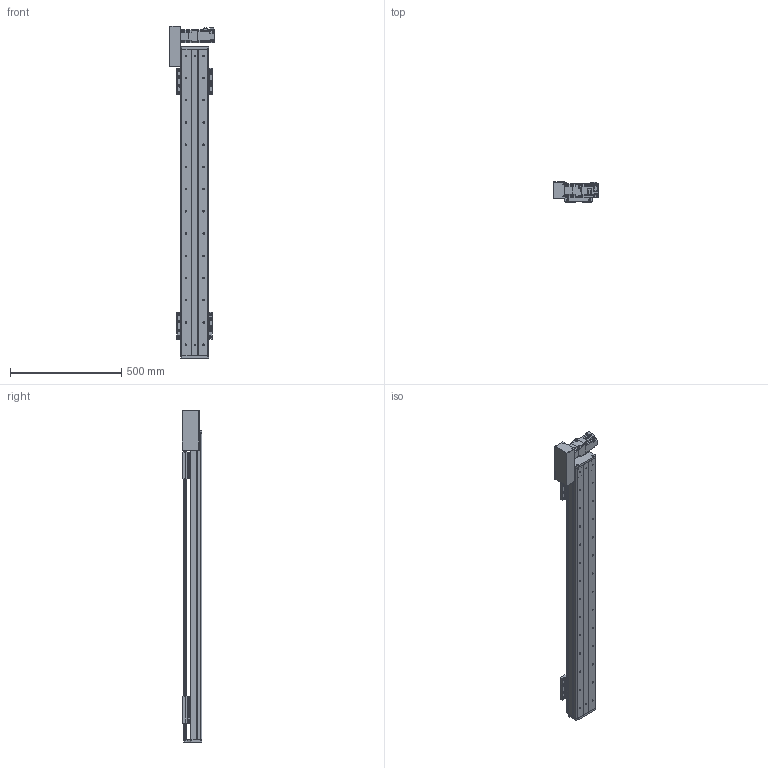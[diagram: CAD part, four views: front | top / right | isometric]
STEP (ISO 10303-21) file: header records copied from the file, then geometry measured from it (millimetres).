
FILE_DESCRIPTION(/* description */ (''),/* implementation_level */ '2;1');
FILE_NAME(/* name */ 'C:\Users\PC\Desktop\3D도면\STEP\DSB125-L2G-W1100-R.stp',/* time_stamp */ '2018-06-13T13:44:24+09:00',/* author */ ('PC'),/* organization */ (''),/* preprocessor_version */ 'ST-DEVELOPER v16.5',/* originating_system */ 'Autodesk Inventor 2017',/* authorisation */ '');
FILE_SCHEMA (('AUTOMOTIVE_DESIGN { 1 0 10303 214 3 1 1 }'));
Length unit declared in the file: millimetre
Products named in the file (12): DSB125-L-300ST; DSR125-BASE(S-TYPE); DSR125-REAR COVER-R01(170203); DSR125-REAR COVER-R01(170203)_1; DSR125-UP COVER-R01(170203); DSR125-TABLE(MSA15X); hg-kr23_; ab0601-p0401200402; 13-BELT COVER; DSR126-SENSOR DOG; pm-y65_step; SENSOR BRACKET(EE-SX674A)
Assembly tree (16 placements, depth 2):
  DSB125-L-300ST
    DSR125-BASE(S-TYPE)
    DSR125-REAR COVER-R01(170203)
    DSR125-REAR COVER-R01(170203)_1
    DSR125-UP COVER-R01(170203)
    DSR125-TABLE(MSA15X)  x2
    hg-kr23_
    ab0601-p0401200402
    13-BELT COVER
    DSR126-SENSOR DOG
    pm-y65_step  x3
    SENSOR BRACKET(EE-SX674A)  x3
Bounding box: 202.1 x 88 x 1494 mm (x, y, z)
Volume: 5099917.5 mm3; surface area: 1469284.7 mm2
Topology: 17 solids, 22 shells, 1677 faces, 4541 edges, 2994 vertices
Faces by surface type: plane 908, cylinder 639, cone 118, sphere 8, torus 4
Full cylindrical faces by diameter (mm): 2.459 x20, 3.242 x16, 3.5 x6, 4 x1, 4.134 x16, 4.2 x4, 4.3 x1, 4.5 x50, 4.917 x20, 5 x27, 5.3 x1, 5.5 x4, 5.6 x8, 5.8 x4, 5.9 x8, 6 x4, 6.6 x22, 6.647 x28, 7.5 x32, 8.5 x8, 8.7 x1, 11 x22, 14 x1, 16 x2, 17 x1, 20 x1, 47 x1, 50 x3
Entity records: 35670 total; most frequent: CARTESIAN_POINT 6547, DIRECTION 6188, ORIENTED_EDGE 5510, EDGE_CURVE 2760, AXIS2_PLACEMENT_3D 2282, VERTEX_POINT 1969, EDGE_LOOP 1705, LINE 1624
